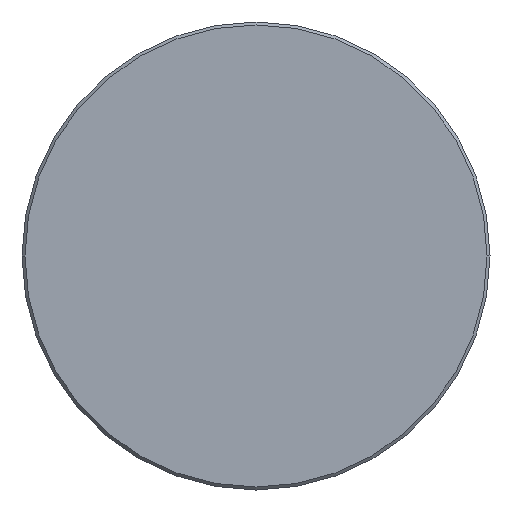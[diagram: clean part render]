
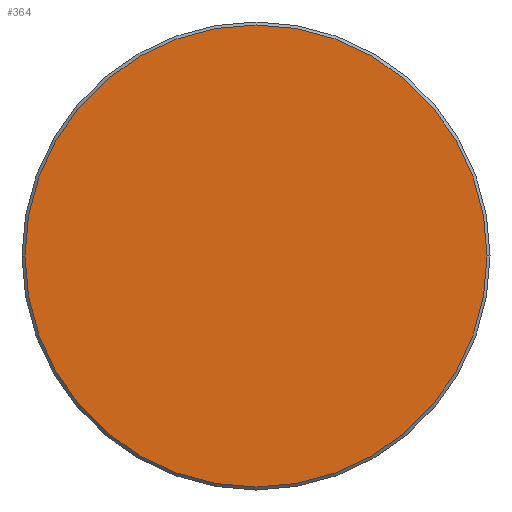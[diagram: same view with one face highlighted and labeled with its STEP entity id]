
A CAD part, left-side view. The second image highlights one B-rep face of the part: STEP entity #364.
In plain terms, the highlighted planar face has unit normal (-1, 0, 0).
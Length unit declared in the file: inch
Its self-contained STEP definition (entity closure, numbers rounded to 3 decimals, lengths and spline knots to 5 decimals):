
#2 = CIRCLE ( 'NONE', #371, 0.3085 ) ;
#20 = CIRCLE ( 'NONE', #359, 0.3085 ) ;
#29 = DIRECTION ( 'NONE',  ( -1., 0., 0. ) ) ;
#65 = DIRECTION ( 'NONE',  ( 0., -1., 0. ) ) ;
#85 = EDGE_CURVE ( 'NONE', #90, #268, #2, .T. ) ;
#90 = VERTEX_POINT ( 'NONE', #234 ) ;
#98 = DIRECTION ( 'NONE',  ( -1., 0., 0. ) ) ;
#130 = EDGE_CURVE ( 'NONE', #268, #90, #20, .T. ) ;
#150 = ORIENTED_EDGE ( 'NONE', *, *, #130, .T. ) ;
#153 = DIRECTION ( 'NONE',  ( 0., -1., 0. ) ) ;
#156 = FACE_OUTER_BOUND ( 'NONE', #198, .T. ) ;
#164 = DIRECTION ( 'NONE',  ( -1., 0., 0. ) ) ;
#198 = EDGE_LOOP ( 'NONE', ( #314, #150 ) ) ;
#208 = CARTESIAN_POINT ( 'NONE',  ( 0., 0., 0. ) ) ;
#234 = CARTESIAN_POINT ( 'NONE',  ( 0., 0.3085, 0. ) ) ;
#261 = CARTESIAN_POINT ( 'NONE',  ( 0., 0., 0. ) ) ;
#268 = VERTEX_POINT ( 'NONE', #334 ) ;
#297 = PLANE ( 'NONE',  #368 ) ;
#314 = ORIENTED_EDGE ( 'NONE', *, *, #85, .T. ) ;
#329 = CARTESIAN_POINT ( 'NONE',  ( 0., 0., 0. ) ) ;
#334 = CARTESIAN_POINT ( 'NONE',  ( 0., -0.3085, 0. ) ) ;
#359 = AXIS2_PLACEMENT_3D ( 'NONE', #208, #29, #65 ) ;
#362 = DIRECTION ( 'NONE',  ( 0., -1., 0. ) ) ;
#364 = ADVANCED_FACE ( 'NONE', ( #156 ), #297, .T. ) ;
#368 = AXIS2_PLACEMENT_3D ( 'NONE', #329, #164, #362 ) ;
#371 = AXIS2_PLACEMENT_3D ( 'NONE', #261, #98, #153 ) ;
